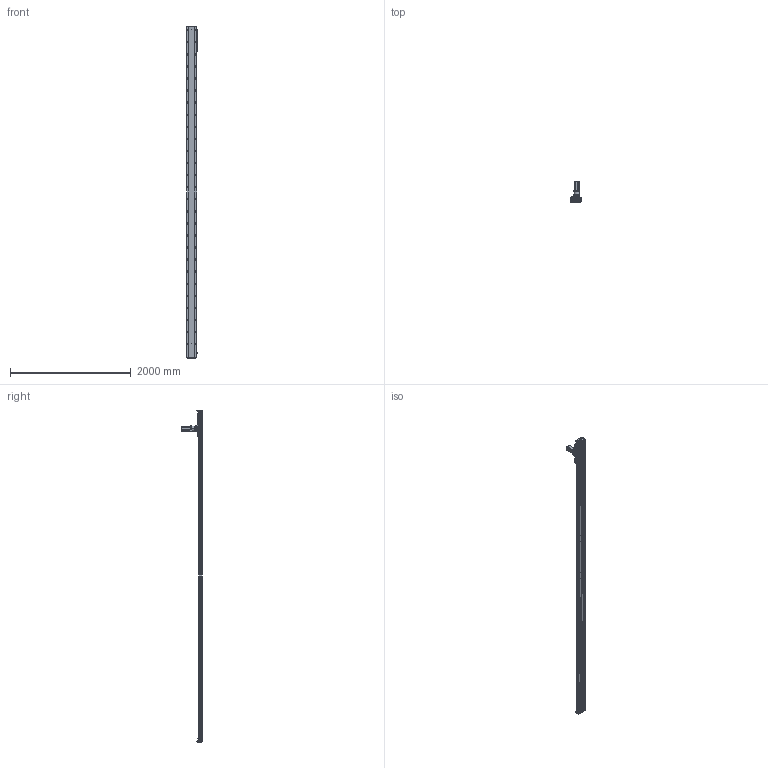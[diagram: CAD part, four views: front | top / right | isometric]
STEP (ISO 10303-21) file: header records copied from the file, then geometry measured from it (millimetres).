
FILE_DESCRIPTION (( 'STEP AP203' ), '1' );
FILE_NAME ('RY170-C-1000-UK.SLDASM_5000.step', '2021-03-03T00:51:44', ( '盈信电脑' ), ( '东莞市道滘镇水果街19号' ), 'SwSTEP 2.0', 'SolidWorks 2012', '' );
FILE_SCHEMA (( 'CONFIG_CONTROL_DESIGN' ));
Products named in the file (13): RY170-C-1000-UK.SLDASM_5000; TF080等撰; RY170-喘沭滅袉蝶輸; RY170-喘沭賑輸; 左旋斜齿齿轮_M2_22齿_内孔20; RY170-喘謫萇儂覃誹啣; RY170外置感应片(200共用）; 覜茼ん672; 怢湛750W萇儂ㄗ80遺ㄘ; RY170綴裔啣ㄗ蜊秶ㄘ; RY170-1000-喘沭耀郪絳寢EGH20CA_5000; 絳寢賑輸EGH20CA; RY170-1000齿条模组型材底座_5000
Assembly tree (22 placements, depth 2):
  RY170-C-1000-UK.SLDASM_5000
    RY170-1000齿条模组型材底座_5000
    絳寢賑輸EGH20CA  x6
    RY170-1000-喘沭耀郪絳寢EGH20CA_5000  x2
    RY170綴裔啣ㄗ蜊秶ㄘ  x2
    覜茼ん672  x3
    RY170外置感应片(200共用）
    RY170-喘謫萇儂覃誹啣
    怢湛750W萇儂ㄗ80遺ㄘ
    RY170-喘沭滅袉蝶輸  x2
    TF080等撰
    左旋斜齿齿轮_M2_22齿_内孔20
    RY170-喘沭賑輸
Bounding box: 188.7 x 343.5 x 5500 mm (x, y, z)
Volume: 25482668.3 mm3; surface area: 6793767.8 mm2
Topology: 24 solids, 24 shells, 5939 faces, 17200 edges, 10876 vertices
Faces by surface type: cylinder 2700, plane 2609, cone 576, bspline 50, torus 4
Entity records: 144560 total; most frequent: CARTESIAN_POINT 37094, ORIENTED_EDGE 22878, DIRECTION 21712, EDGE_CURVE 11439, AXIS2_PLACEMENT_3D 8225, VERTEX_POINT 7426, LINE 5262, VECTOR 5262
